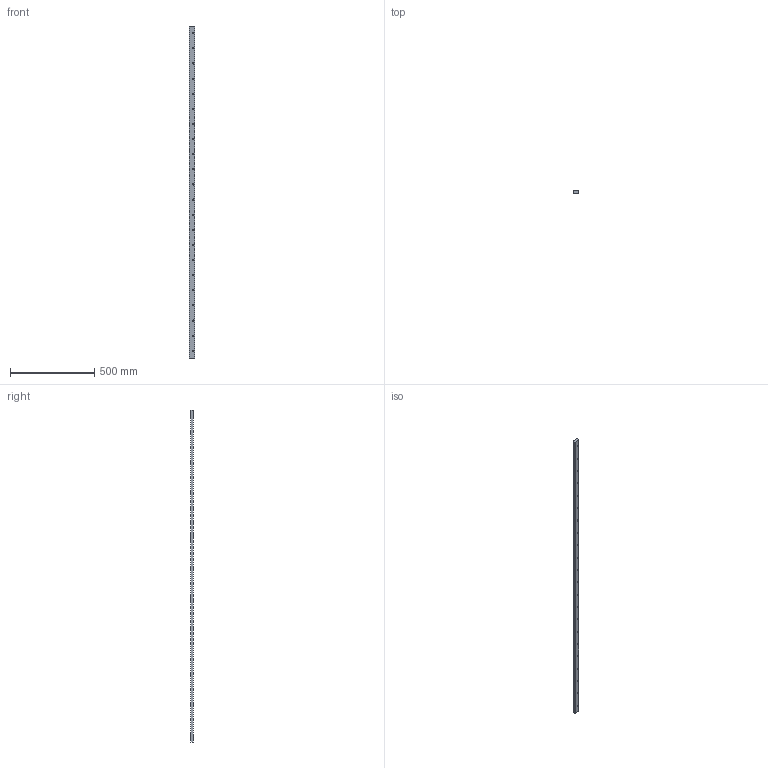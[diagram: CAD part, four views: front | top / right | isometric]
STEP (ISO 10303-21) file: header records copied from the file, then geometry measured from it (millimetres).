
FILE_DESCRIPTION(('STEP AP203'),'1');
FILE_NAME('track_ft3216l1976p2a.stp','2022-07-04T01:45:52',('TraceParts'),('TraceParts S.A.'),'Spatial InterOp 3D',' ',' ');
FILE_SCHEMA(('CONFIG_CONTROL_DESIGN'));
Length unit declared in the file: millimetre
Products named in the file (1): 1
Bounding box: 32.4 x 16 x 1976 mm (x, y, z)
Volume: 1001924.7 mm3; surface area: 197240.5 mm2
Topology: 1 solids, 1 shells, 120 faces, 288 edges, 192 vertices
Faces by surface type: cylinder 88, plane 32
Entity records: 3720 total; most frequent: DIRECTION 706, CARTESIAN_POINT 601, ORIENTED_EDGE 576, AXIS2_PLACEMENT_3D 297, EDGE_CURVE 288, VERTEX_POINT 192, EDGE_LOOP 186, CIRCLE 176
